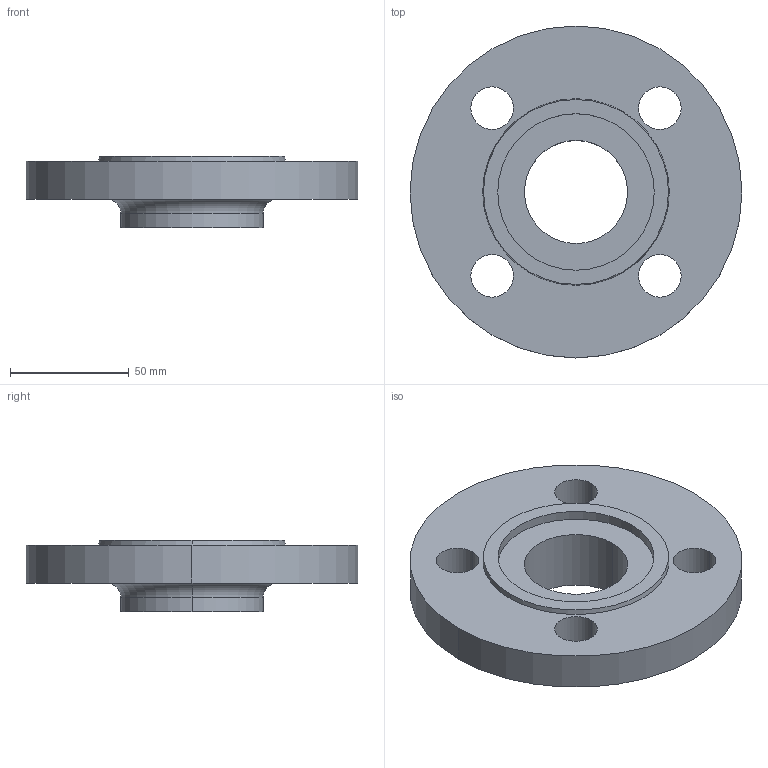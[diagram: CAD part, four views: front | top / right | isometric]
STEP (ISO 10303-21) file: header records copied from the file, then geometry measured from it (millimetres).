
FILE_DESCRIPTION (( 'STEP AP214' ), '1' );
FILE_NAME ('PN40 DN32 Type 12 - Type F Face.STEP', '2018-12-29T23:56:40', ( '' ), ( '' ), 'SwSTEP 2.0', 'SolidWorks 2019', '' );
FILE_SCHEMA (( 'AUTOMOTIVE_DESIGN' ));
Length unit declared in the file: millimetre
Products named in the file (1): PN40 DN32 Type 12 - Type F Face
Bounding box: 140 x 140 x 30 mm (x, y, z)
Volume: 222783.6 mm3; surface area: 43024 mm2
Topology: 1 solids, 1 shells, 25 faces, 58 edges, 38 vertices
Faces by surface type: cylinder 16, plane 5, torus 2, cone 2
Entity records: 790 total; most frequent: DIRECTION 150, CARTESIAN_POINT 122, ORIENTED_EDGE 116, AXIS2_PLACEMENT_3D 66, EDGE_CURVE 58, CIRCLE 40, VERTEX_POINT 38, EDGE_LOOP 38
